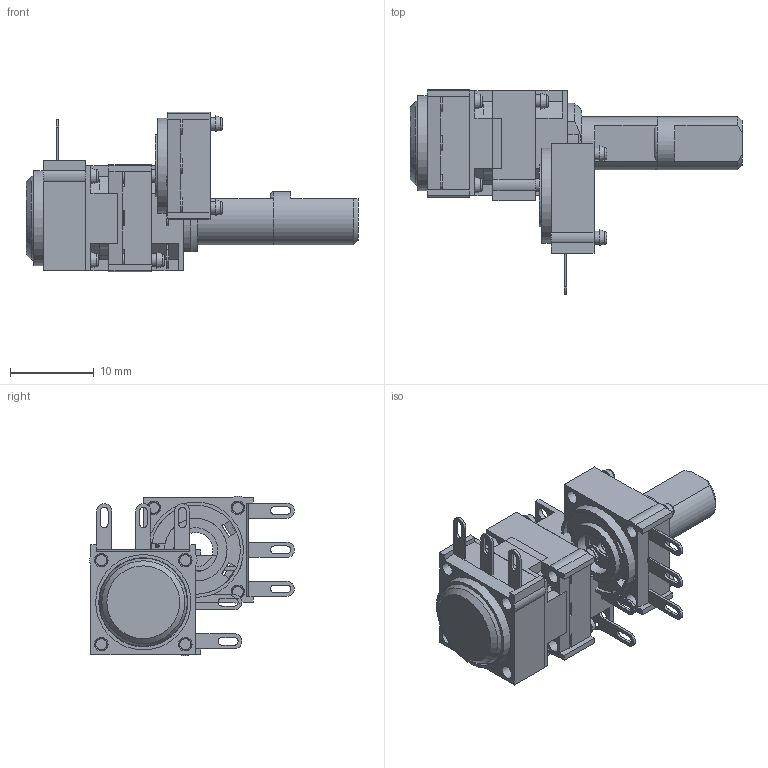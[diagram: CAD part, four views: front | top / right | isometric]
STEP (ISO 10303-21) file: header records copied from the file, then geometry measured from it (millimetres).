
FILE_DESCRIPTION( ( 'Unknown' ), '1' );
FILE_NAME( 'I:/Dev_Pots_Trimmers/01-Plans_Cao/P11/Step/P11S1F0GHFY00502KA.stp', 'Unknown', ( 'Unknown' ), ( 'Unknown' ), 'XStep 1.0', 'Unknown', ' ' );
FILE_SCHEMA( ( 'automotive_design' ) );
Length unit declared in the file: millimetre
Products named in the file (9): Assem1; Assem2; bande à chas; 3650993; 3650540; 3653060; 3664192mono
Bounding box: 39.54 x 24.4 x 19.05 mm (x, y, z)
Volume: 3874 mm3; surface area: 6723.1 mm2
Topology: 18 solids, 18 shells, 984 faces, 2630 edges, 1727 vertices
Faces by surface type: plane 576, cylinder 280, cone 79, torus 25, bspline 24
Full cylindrical faces by diameter (mm): 1.3 x12, 1.5 x24, 1.55 x8, 3.4 x2, 3.97 x2, 4 x2, 4.1 x3, 5.25 x3, 5.9 x2, 6.35 x4, 6.4 x2, 7.42 x2, 7.44 x3, 8.4 x2, 9.65 x2, 10.6 x3, 11.35 x3
Entity records: 11592 total; most frequent: CARTESIAN_POINT 2611, DIRECTION 1826, ORIENTED_EDGE 1726, EDGE_CURVE 863, AXIS2_PLACEMENT_3D 652, VERTEX_POINT 597, LINE 522, VECTOR 522
